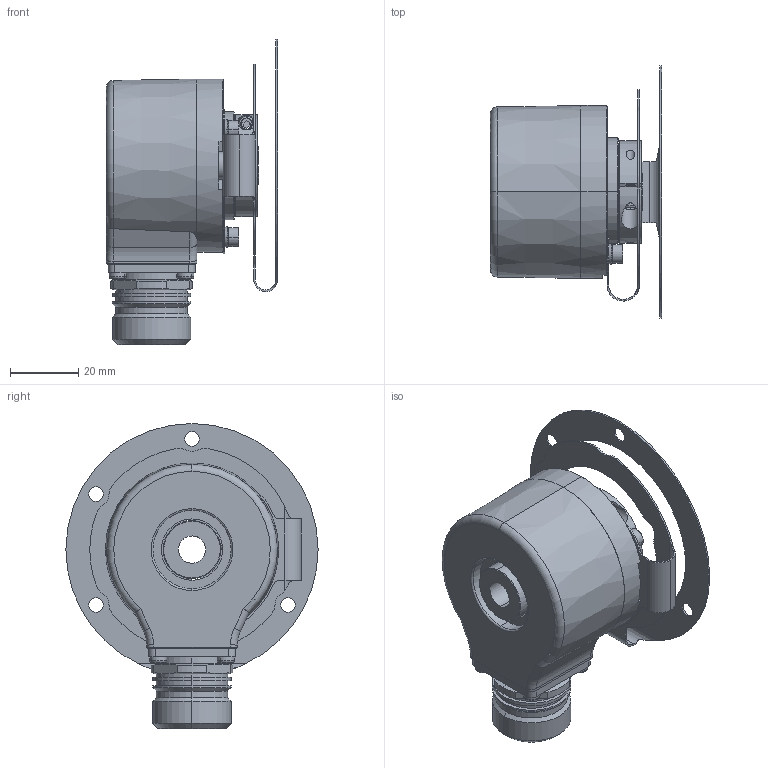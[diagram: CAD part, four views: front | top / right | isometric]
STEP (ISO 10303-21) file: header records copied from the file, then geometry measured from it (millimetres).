
FILE_DESCRIPTION (( 'STEP AP214' ), '1' );
FILE_NAME ('8.5020.89X4.XXXX.STEP', '2011-01-10T09:56:44', ( 'admin' ), ( 'Fritz Kübler GmbH' ), 'SwSTEP 2.0', 'SolidWorks 2009', '' );
FILE_SCHEMA (( 'AUTOMOTIVE_DESIGN' ));
Length unit declared in the file: millimetre
Products named in the file (1): 8.5020.89X4.XXXX
Bounding box: 50.2 x 74 x 89.5 mm (x, y, z)
Surface area: 27651.9 mm2 (no closed solid volume)
Topology: 0 solids, 40 shells, 458 faces, 1324 edges, 884 vertices
Faces by surface type: cylinder 203, plane 137, cone 46, torus 36, sphere 32, bspline 4
Entity records: 20594 total; most frequent: CARTESIAN_POINT 3288, DIRECTION 2808, ORIENTED_EDGE 2287, EDGE_CURVE 1296, AXIS2_PLACEMENT_3D 1150, VERTEX_POINT 884, CIRCLE 695, EDGE_LOOP 530
